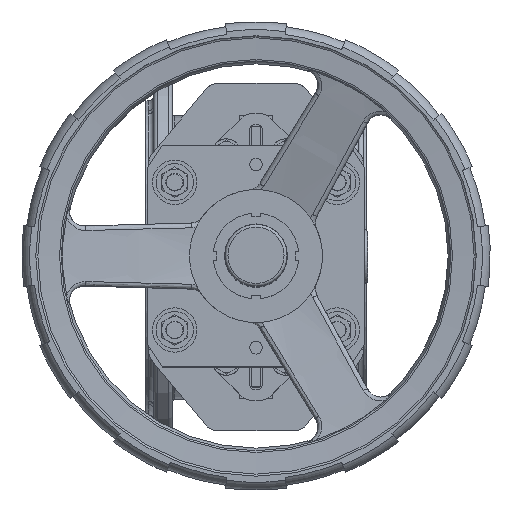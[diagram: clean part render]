
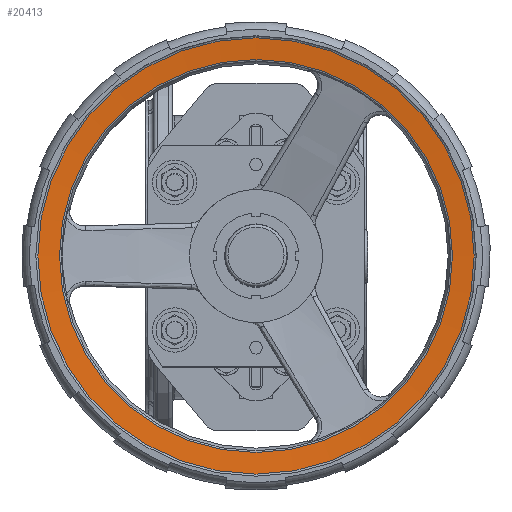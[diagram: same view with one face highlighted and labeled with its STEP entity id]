
A CAD part, top view. The second image highlights one B-rep face of the part: STEP entity #20413.
In plain terms, the highlighted conical face has half-angle 85 degrees and reference radius 149 mm.
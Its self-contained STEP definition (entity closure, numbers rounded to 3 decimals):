
#1191=CONICAL_SURFACE('',#22364,149.,1.484);
#1536=FACE_BOUND('',#5176,.T.);
#2645=CIRCLE('',#22365,132.967);
#2646=CIRCLE('',#22366,147.631);
#3673=FACE_OUTER_BOUND('',#5175,.T.);
#5175=EDGE_LOOP('',(#14658));
#5176=EDGE_LOOP('',(#14659));
#9499=VERTEX_POINT('',#35149);
#9500=VERTEX_POINT('',#35151);
#11531=EDGE_CURVE('',#9499,#9499,#2645,.T.);
#11532=EDGE_CURVE('',#9500,#9500,#2646,.T.);
#14658=ORIENTED_EDGE('',*,*,#11531,.T.);
#14659=ORIENTED_EDGE('',*,*,#11532,.T.);
#20413=ADVANCED_FACE('',(#3673,#1536),#1191,.F.);
#22364=AXIS2_PLACEMENT_3D('',#35148,#25853,#25854);
#22365=AXIS2_PLACEMENT_3D('',#35150,#25855,#25856);
#22366=AXIS2_PLACEMENT_3D('',#35152,#25857,#25858);
#25853=DIRECTION('center_axis',(0.,0.,
1.));
#25854=DIRECTION('ref_axis',(0.,1.,0.));
#25855=DIRECTION('center_axis',(0.,0.,
-1.));
#25856=DIRECTION('ref_axis',(0.,-1.,0.));
#25857=DIRECTION('center_axis',(0.,0.,
1.));
#25858=DIRECTION('ref_axis',(0.,1.,0.));
#35148=CARTESIAN_POINT('Origin',(0.,0.,
617.466));
#35149=CARTESIAN_POINT('',(0.,-132.967,616.063));
#35150=CARTESIAN_POINT('Origin',(0.,0.,
616.063));
#35151=CARTESIAN_POINT('',(0.,-147.631,617.346));
#35152=CARTESIAN_POINT('Origin',(0.,0.,
617.346));
